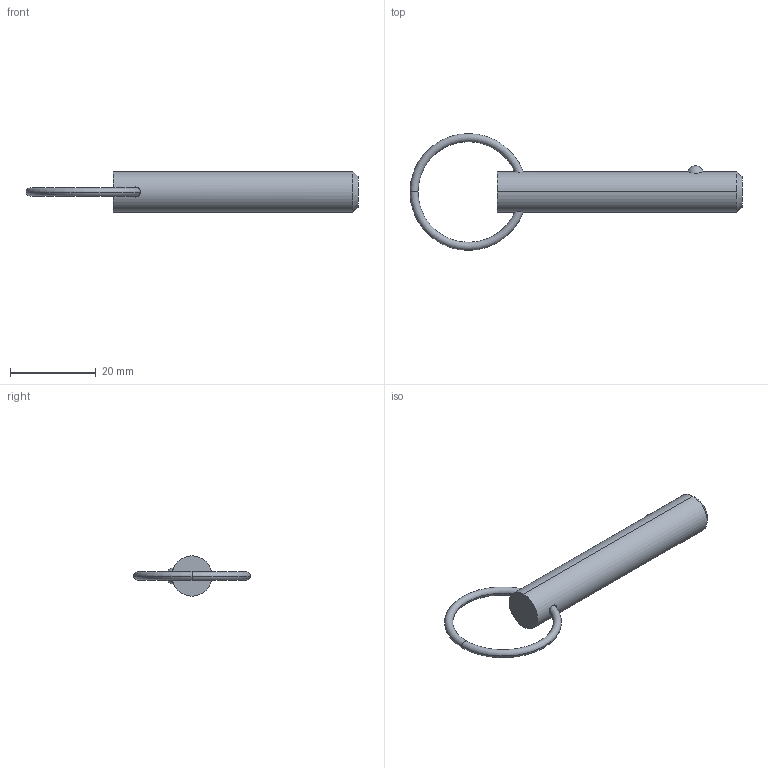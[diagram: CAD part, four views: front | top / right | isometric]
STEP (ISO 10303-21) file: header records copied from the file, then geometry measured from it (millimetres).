
FILE_DESCRIPTION (( 'STEP AP203' ), '1' );
FILE_NAME ('33012.W3715.step', '2024-11-01T14:09:32', ( '' ), ( '' ), 'SwSTEP 2.0', 'SolidWorks 2019', '' );
FILE_SCHEMA (( 'CONFIG_CONTROL_DESIGN' ));
Length unit declared in the file: millimetre
Products named in the file (3): Part2_33012.W3715; 33012.W3715; Part1_33012.W3715
Assembly tree (2 placements, depth 2):
  33012.W3715
    Part1_33012.W3715
    Part2_33012.W3715
Bounding box: 77.49 x 27.28 x 9.4 mm (x, y, z)
Volume: 4137.5 mm3; surface area: 2344.2 mm2
Topology: 2 solids, 2 shells, 16 faces, 31 edges, 18 vertices
Faces by surface type: torus 8, sphere 2, cone 2, cylinder 2, plane 2
Entity records: 849 total; most frequent: CARTESIAN_POINT 206, DIRECTION 88, ORIENTED_EDGE 62, AXIS2_PLACEMENT_3D 42, EDGE_CURVE 31, PERSON_AND_ORGANIZATION 26, CIRCLE 21, LOCAL_TIME 19
